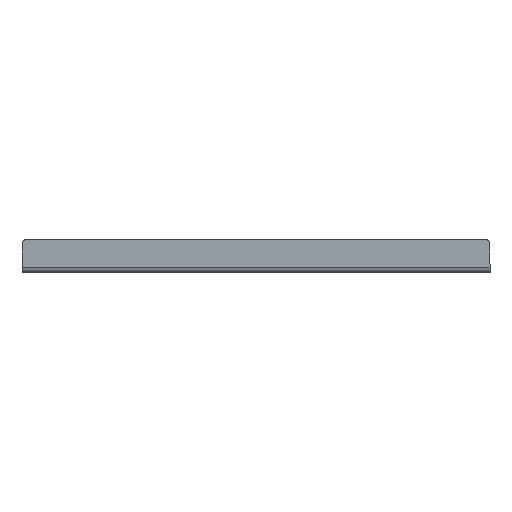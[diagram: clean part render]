
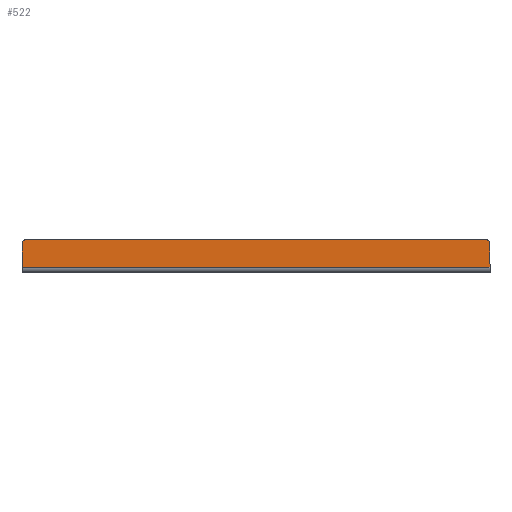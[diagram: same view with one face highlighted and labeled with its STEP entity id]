
A CAD part, front view. The second image highlights one B-rep face of the part: STEP entity #522.
In plain terms, the highlighted planar face has unit normal (0, -1, 0).
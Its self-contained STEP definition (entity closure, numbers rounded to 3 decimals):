
#21 = EDGE_LOOP ( 'NONE', ( #35, #96, #609, #1468, #1613, #2080 ) ) ;
#35 = ORIENTED_EDGE ( 'NONE', *, *, #2151, .T. ) ;
#96 = ORIENTED_EDGE ( 'NONE', *, *, #1463, .T. ) ;
#134 = CARTESIAN_POINT ( 'NONE',  ( -287.5, -60., 3. ) ) ;
#155 = CARTESIAN_POINT ( 'NONE',  ( -287.5, -60., 0. ) ) ;
#217 = DIRECTION ( 'NONE',  ( 0., -1., 0. ) ) ;
#230 = VECTOR ( 'NONE', #2032, 1000. ) ;
#265 = VERTEX_POINT ( 'NONE', #1269 ) ;
#306 = AXIS2_PLACEMENT_3D ( 'NONE', #885, #2221, #1572 ) ;
#436 = CARTESIAN_POINT ( 'NONE',  ( 287.5, -60., 32. ) ) ;
#474 = PLANE ( 'NONE',  #1599 ) ;
#503 = CIRCLE ( 'NONE', #1122, 5. ) ;
#522 = ADVANCED_FACE ( 'NONE', ( #1571 ), #474, .F. ) ;
#609 = ORIENTED_EDGE ( 'NONE', *, *, #944, .T. ) ;
#699 = CARTESIAN_POINT ( 'NONE',  ( -287.5, -60., 3. ) ) ;
#723 = CARTESIAN_POINT ( 'NONE',  ( 287.5, -60., 3. ) ) ;
#828 = LINE ( 'NONE', #155, #1010 ) ;
#854 = LINE ( 'NONE', #1679, #230 ) ;
#885 = CARTESIAN_POINT ( 'NONE',  ( 282.5, -60., 32. ) ) ;
#929 = DIRECTION ( 'NONE',  ( 0., 0., 1. ) ) ;
#944 = EDGE_CURVE ( 'NONE', #1937, #265, #1785, .T. ) ;
#965 = VERTEX_POINT ( 'NONE', #723 ) ;
#1010 = VECTOR ( 'NONE', #2035, 1000. ) ;
#1036 = DIRECTION ( 'NONE',  ( 0., 1., 0. ) ) ;
#1049 = DIRECTION ( 'NONE',  ( 0., 0., 1. ) ) ;
#1057 = VERTEX_POINT ( 'NONE', #436 ) ;
#1099 = CARTESIAN_POINT ( 'NONE',  ( -282.5, -60., 32. ) ) ;
#1122 = AXIS2_PLACEMENT_3D ( 'NONE', #1099, #217, #929 ) ;
#1172 = VERTEX_POINT ( 'NONE', #134 ) ;
#1186 = CARTESIAN_POINT ( 'NONE',  ( 0., -60., 0. ) ) ;
#1269 = CARTESIAN_POINT ( 'NONE',  ( -282.5, -60., 37. ) ) ;
#1270 = EDGE_CURVE ( 'NONE', #1959, #1172, #828, .T. ) ;
#1373 = EDGE_CURVE ( 'NONE', #965, #1172, #1913, .T. ) ;
#1426 = CARTESIAN_POINT ( 'NONE',  ( -287.5, -60., 32. ) ) ;
#1463 = EDGE_CURVE ( 'NONE', #1057, #1937, #2158, .T. ) ;
#1468 = ORIENTED_EDGE ( 'NONE', *, *, #2137, .T. ) ;
#1528 = VECTOR ( 'NONE', #1589, 1000. ) ;
#1571 = FACE_OUTER_BOUND ( 'NONE', #21, .T. ) ;
#1572 = DIRECTION ( 'NONE',  ( 0., 0., 1. ) ) ;
#1580 = CARTESIAN_POINT ( 'NONE',  ( 0., -60., 37. ) ) ;
#1585 = CARTESIAN_POINT ( 'NONE',  ( 282.5, -60., 37. ) ) ;
#1589 = DIRECTION ( 'NONE',  ( -1., 0., 0. ) ) ;
#1599 = AXIS2_PLACEMENT_3D ( 'NONE', #1186, #1036, #1049 ) ;
#1613 = ORIENTED_EDGE ( 'NONE', *, *, #1270, .T. ) ;
#1679 = CARTESIAN_POINT ( 'NONE',  ( 287.5, -60., 0. ) ) ;
#1785 = LINE ( 'NONE', #1580, #1528 ) ;
#1878 = VECTOR ( 'NONE', #2069, 1000. ) ;
#1913 = LINE ( 'NONE', #699, #1878 ) ;
#1937 = VERTEX_POINT ( 'NONE', #1585 ) ;
#1959 = VERTEX_POINT ( 'NONE', #1426 ) ;
#2032 = DIRECTION ( 'NONE',  ( 0., 0., 1. ) ) ;
#2035 = DIRECTION ( 'NONE',  ( 0., 0., -1. ) ) ;
#2069 = DIRECTION ( 'NONE',  ( -1., 0., 0. ) ) ;
#2080 = ORIENTED_EDGE ( 'NONE', *, *, #1373, .F. ) ;
#2137 = EDGE_CURVE ( 'NONE', #265, #1959, #503, .T. ) ;
#2151 = EDGE_CURVE ( 'NONE', #965, #1057, #854, .T. ) ;
#2158 = CIRCLE ( 'NONE', #306, 5. ) ;
#2221 = DIRECTION ( 'NONE',  ( 0., -1., 0. ) ) ;
